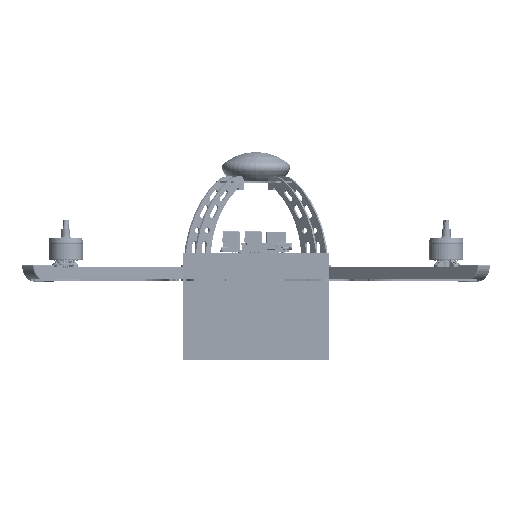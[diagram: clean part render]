
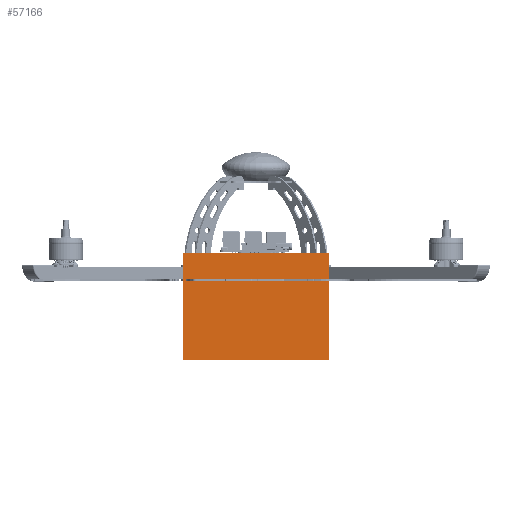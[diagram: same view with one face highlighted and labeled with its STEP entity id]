
A CAD part, left-side view. The second image highlights one B-rep face of the part: STEP entity #57166.
In plain terms, the highlighted planar face has unit normal (-1, 0, 0) as drawn and (0, 1, 0) by its records, which use the part's own axes.
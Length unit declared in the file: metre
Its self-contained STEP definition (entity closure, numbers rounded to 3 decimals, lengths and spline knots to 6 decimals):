
#57166=ADVANCED_FACE('159:2955',(#115848),#115849,.F.);
#115848=FACE_OUTER_BOUND('',#182042,.T.);
#115849=PLANE('',#182043);
#182042=EDGE_LOOP('',(#345083,#345084,#345085,#345086));
#182043=AXIS2_PLACEMENT_3D('',#345087,#345088,#345089);
#345083=ORIENTED_EDGE('',*,*,#417090,.T.);
#345084=ORIENTED_EDGE('',*,*,#417091,.F.);
#345085=ORIENTED_EDGE('',*,*,#417092,.F.);
#345086=ORIENTED_EDGE('',*,*,#417093,.T.);
#345087=CARTESIAN_POINT('',(0.1,0.118708,0.043676));
#345088=DIRECTION('',(0.0,-1.0,0.0));
#345089=DIRECTION('',(0.0,0.0,-1.0));
#417090=EDGE_CURVE('159:2973',#513847,#513848,#513849,.T.);
#417091=EDGE_CURVE('159:2976',#513850,#513848,#513851,.T.);
#417092=EDGE_CURVE('159:2979',#513852,#513850,#513853,.T.);
#417093=EDGE_CURVE('159:2982',#513852,#513847,#513854,.T.);
#513847=VERTEX_POINT('NONE',#694806);
#513848=VERTEX_POINT('NONE',#694807);
#513849=LINE('',#694808,#694809);
#513850=VERTEX_POINT('NONE',#694810);
#513851=LINE('',#694811,#694812);
#513852=VERTEX_POINT('NONE',#694813);
#513853=LINE('',#694814,#694815);
#513854=LINE('',#694816,#694817);
#694806=CARTESIAN_POINT('',(-0.059599,0.118708,-0.043676));
#694807=CARTESIAN_POINT('',(-0.059599,0.118708,0.043676));
#694808=CARTESIAN_POINT('',(-0.059599,0.118708,-0.043676));
#694809=VECTOR('',#776511,1.0);
#694810=CARTESIAN_POINT('',(0.059599,0.118708,0.043676));
#694811=CARTESIAN_POINT('',(0.1,0.118708,0.043676));
#694812=VECTOR('',#776512,1.0);
#694813=CARTESIAN_POINT('',(0.059599,0.118708,-0.043676));
#694814=CARTESIAN_POINT('',(0.059599,0.118708,-0.043676));
#694815=VECTOR('',#776513,1.0);
#694816=CARTESIAN_POINT('',(0.1,0.118708,-0.043676));
#694817=VECTOR('',#776514,1.0);
#776511=DIRECTION('',(-0.0,-0.0,1.0));
#776512=DIRECTION('',(-1.0,-0.0,-0.0));
#776513=DIRECTION('',(-0.0,-0.0,1.0));
#776514=DIRECTION('',(-1.0,-0.0,-0.0));
